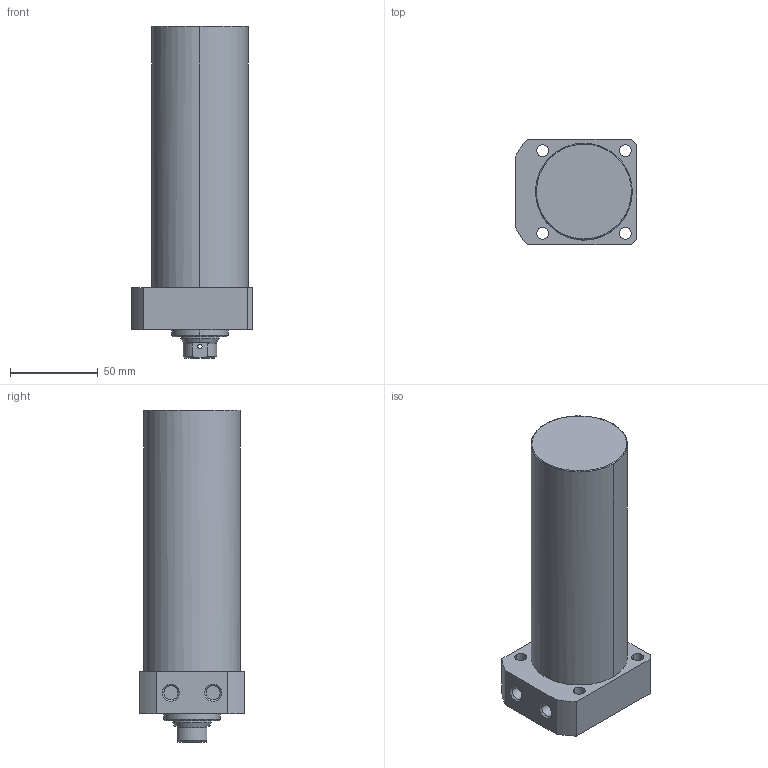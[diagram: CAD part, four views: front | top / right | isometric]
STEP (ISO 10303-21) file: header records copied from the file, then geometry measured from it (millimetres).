
FILE_DESCRIPTION((' '),'2;1');
FILE_NAME( 'TLLR-055CB-120.STEP.stp', '2025-10-24T16:34:45', (' '), ('--- Datakit www.datakit.com---'), ' Datakit CrossCadWare V2024.1 Dec 21 2023', 'Mastercam 2025', ' ');
FILE_SCHEMA(('AUTOMOTIVE_DESIGN { 1 0 10303 214 1 1 1 1 }'));
Length unit declared in the file: millimetre
Products named in the file (1): TLLR-055CB-120
Bounding box: 69 x 60 x 189 mm (x, y, z)
Volume: 451583.9 mm3; surface area: 44080.8 mm2
Topology: 1 solids, 1 shells, 67 faces, 197 edges, 136 vertices
Faces by surface type: cylinder 32, plane 19, cone 14, torus 2
Entity records: 3058 total; most frequent: CARTESIAN_POINT 1139, DIRECTION 426, ORIENTED_EDGE 390, EDGE_CURVE 195, AXIS2_PLACEMENT_3D 179, VERTEX_POINT 136, CIRCLE 111, EDGE_LOOP 85
